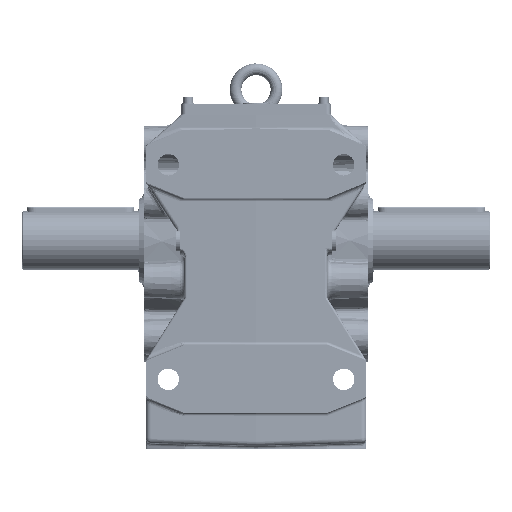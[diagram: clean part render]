
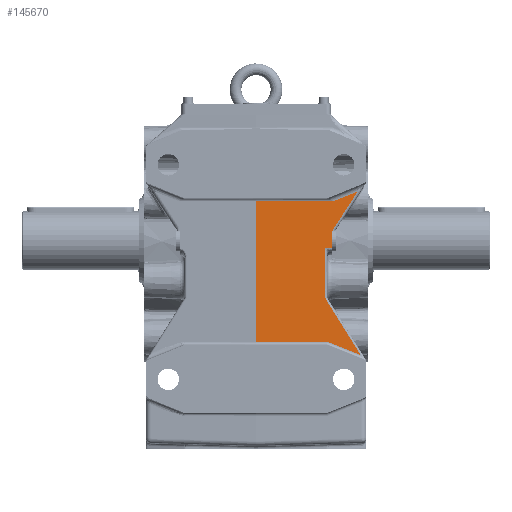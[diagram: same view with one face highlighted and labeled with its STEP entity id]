
A CAD part, left-side view. The second image highlights one B-rep face of the part: STEP entity #145670.
In plain terms, the highlighted planar face has unit normal (-1, -0.026, 0).
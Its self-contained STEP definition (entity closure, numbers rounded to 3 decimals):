
#85242=CARTESIAN_POINT('',(-128.064,-70.565,-46.049));
#85243=VERTEX_POINT('',#85242);
#85268=CARTESIAN_POINT('',(-128.064,-70.565,-8.048));
#85269=VERTEX_POINT('',#85268);
#85279=CARTESIAN_POINT('',(-128.064,-70.565,-8.048));
#85280=DIRECTION('',(0.0,0.0,-1.0));
#85281=VECTOR('',#85280,38.001);
#85282=LINE('',#85279,#85281);
#85283=EDGE_CURVE('',#85269,#85243,#85282,.T.);
#85325=CARTESIAN_POINT('',(-127.177,-104.418,50.274));
#85326=VERTEX_POINT('',#85325);
#85334=CARTESIAN_POINT('',(-127.854,-78.565,10.465));
#85335=VERTEX_POINT('',#85334);
#85336=CARTESIAN_POINT('',(-127.177,-104.418,50.274));
#85337=DIRECTION('',(-0.014,0.545,-0.839));
#85338=VECTOR('',#85337,47.472);
#85339=LINE('',#85336,#85338);
#85340=EDGE_CURVE('',#85326,#85335,#85339,.T.);
#85681=CARTESIAN_POINT('',(-127.85,-78.733,40.));
#85682=VERTEX_POINT('',#85681);
#85696=CARTESIAN_POINT('',(-127.85,-78.733,40.));
#85697=DIRECTION('',(0.024,-0.928,0.371));
#85698=VECTOR('',#85697,27.672);
#85699=LINE('',#85696,#85698);
#85700=EDGE_CURVE('',#85682,#85326,#85699,.T.);
#91825=CARTESIAN_POINT('',(-129.912,0.,40.));
#91826=VERTEX_POINT('',#91825);
#91834=CARTESIAN_POINT('',(-129.912,0.,40.));
#91835=DIRECTION('',(0.026,-1.,0.));
#91836=VECTOR('',#91835,78.76);
#91837=LINE('',#91834,#91836);
#91838=EDGE_CURVE('',#91826,#85682,#91837,.T.);
#105667=CARTESIAN_POINT('',(-127.987,-73.499,-104.));
#105668=VERTEX_POINT('',#105667);
#105676=CARTESIAN_POINT('',(-129.912,0.,-104.));
#105677=VERTEX_POINT('',#105676);
#105678=CARTESIAN_POINT('',(-127.987,-73.499,-104.));
#105679=DIRECTION('',(-0.026,1.,0.));
#105680=VECTOR('',#105679,73.524);
#105681=LINE('',#105678,#105680);
#105682=EDGE_CURVE('',#105668,#105677,#105681,.T.);
#105841=CARTESIAN_POINT('',(-127.103,-107.26,-117.504));
#105842=VERTEX_POINT('',#105841);
#105850=CARTESIAN_POINT('',(-127.103,-107.26,-117.504));
#105851=DIRECTION('',(-0.024,0.928,0.371));
#105852=VECTOR('',#105851,36.372);
#105853=LINE('',#105850,#105852);
#105854=EDGE_CURVE('',#105842,#105668,#105853,.T.);
#106038=CARTESIAN_POINT('',(-128.024,-72.087,-61.215));
#106039=VERTEX_POINT('',#106038);
#106047=CARTESIAN_POINT('',(-128.024,-72.087,-61.215));
#106048=DIRECTION('',(0.014,-0.53,-0.848));
#106049=VECTOR('',#106048,66.381);
#106050=LINE('',#106047,#106049);
#106051=EDGE_CURVE('',#106039,#105842,#106050,.T.);
#106124=CARTESIAN_POINT('',(-128.064,-70.565,-46.049));
#106125=CARTESIAN_POINT('',(-128.064,-70.566,-46.058));
#106126=CARTESIAN_POINT('',(-128.064,-70.566,-46.068));
#106127=CARTESIAN_POINT('',(-128.063,-70.588,-47.1));
#106128=CARTESIAN_POINT('',(-128.062,-70.632,-49.146));
#106129=CARTESIAN_POINT('',(-128.06,-70.692,-51.703));
#106130=CARTESIAN_POINT('',(-128.059,-70.752,-53.749));
#106131=CARTESIAN_POINT('',(-128.057,-70.805,-55.283));
#106132=CARTESIAN_POINT('',(-128.055,-70.883,-56.815));
#106133=CARTESIAN_POINT('',(-128.052,-71.009,-58.347));
#106134=CARTESIAN_POINT('',(-128.043,-71.364,-59.847));
#106135=CARTESIAN_POINT('',(-128.031,-71.815,-60.781));
#106136=CARTESIAN_POINT('',(-128.024,-72.087,-61.215));
#106137=B_SPLINE_CURVE_WITH_KNOTS('',3,(#106124,#106125,#106126,#106127,#106128,#106129,#106130,#106131,#106132,#106133,#106134,#106135,#106136),.UNSPECIFIED.,.F.,.U.,(4,2,1,1,1,1,1,1,1,4),(-0.003,0.0,0.307,0.614,0.767,0.921,1.074,1.228,1.381,1.535),.UNSPECIFIED.);
#106138=EDGE_CURVE('',#85243,#106039,#106137,.T.);
#145601=CARTESIAN_POINT('',(-127.854,-78.565,9.191));
#145602=VERTEX_POINT('',#145601);
#145615=CARTESIAN_POINT('',(-127.854,-78.565,10.465));
#145616=DIRECTION('',(0.0,0.0,-1.0));
#145617=VECTOR('',#145616,1.274);
#145618=LINE('',#145615,#145617);
#145619=EDGE_CURVE('',#85335,#145602,#145618,.T.);
#145624=CARTESIAN_POINT('',(-129.911,-0.025,-208.));
#145625=DIRECTION('',(-1.,-0.026,0.));
#145626=DIRECTION('',(0.0,0.0,1.0));
#145627=AXIS2_PLACEMENT_3D('',#145624,#145625,#145626);
#145628=PLANE('',#145627);
#145629=CARTESIAN_POINT('',(-127.869,-78.,-8.274));
#145630=VERTEX_POINT('',#145629);
#145631=CARTESIAN_POINT('',(-127.869,-78.,9.172));
#145632=VERTEX_POINT('',#145631);
#145633=CARTESIAN_POINT('',(-127.869,-78.,-8.274));
#145634=DIRECTION('',(0.0,0.0,1.0));
#145635=VECTOR('',#145634,17.446);
#145636=LINE('',#145633,#145635);
#145637=EDGE_CURVE('',#145630,#145632,#145636,.T.);
#145638=ORIENTED_EDGE('',*,*,#145637,.T.);
#145639=CARTESIAN_POINT('',(-116.,-531.262,0.));
#145640=DIRECTION('',(1.,0.026,0.));
#145641=DIRECTION('',(-0.026,1.,0.));
#145642=AXIS2_PLACEMENT_3D('',#145639,#145640,#145641);
#145643=ELLIPSE('',#145642,573.023,15.);
#145644=EDGE_CURVE('',#145632,#145602,#145643,.T.);
#145645=ORIENTED_EDGE('',*,*,#145644,.T.);
#145646=ORIENTED_EDGE('',*,*,#145619,.F.);
#145647=ORIENTED_EDGE('',*,*,#85340,.F.);
#145648=ORIENTED_EDGE('',*,*,#85700,.F.);
#145649=ORIENTED_EDGE('',*,*,#91838,.F.);
#145650=CARTESIAN_POINT('',(-129.912,0.,40.));
#145651=DIRECTION('',(0.0,0.0,-1.0));
#145652=VECTOR('',#145651,144.0);
#145653=LINE('',#145650,#145652);
#145654=EDGE_CURVE('',#91826,#105677,#145653,.T.);
#145655=ORIENTED_EDGE('',*,*,#145654,.T.);
#145656=ORIENTED_EDGE('',*,*,#105682,.F.);
#145657=ORIENTED_EDGE('',*,*,#105854,.F.);
#145658=ORIENTED_EDGE('',*,*,#106051,.F.);
#145659=ORIENTED_EDGE('',*,*,#106138,.F.);
#145660=ORIENTED_EDGE('',*,*,#85283,.F.);
#145661=CARTESIAN_POINT('',(-118.499,-435.823,0.));
#145662=DIRECTION('',(1.,0.026,0.));
#145663=DIRECTION('',(-0.026,1.,0.));
#145664=AXIS2_PLACEMENT_3D('',#145661,#145662,#145663);
#145665=ELLIPSE('',#145664,477.519,12.5);
#145666=EDGE_CURVE('',#145630,#85269,#145665,.T.);
#145667=ORIENTED_EDGE('',*,*,#145666,.F.);
#145668=EDGE_LOOP('',(#145638,#145645,#145646,#145647,#145648,#145649,#145655,#145656,#145657,#145658,#145659,#145660,#145667));
#145669=FACE_OUTER_BOUND('',#145668,.T.);
#145670=ADVANCED_FACE('',(#145669),#145628,.T.);
